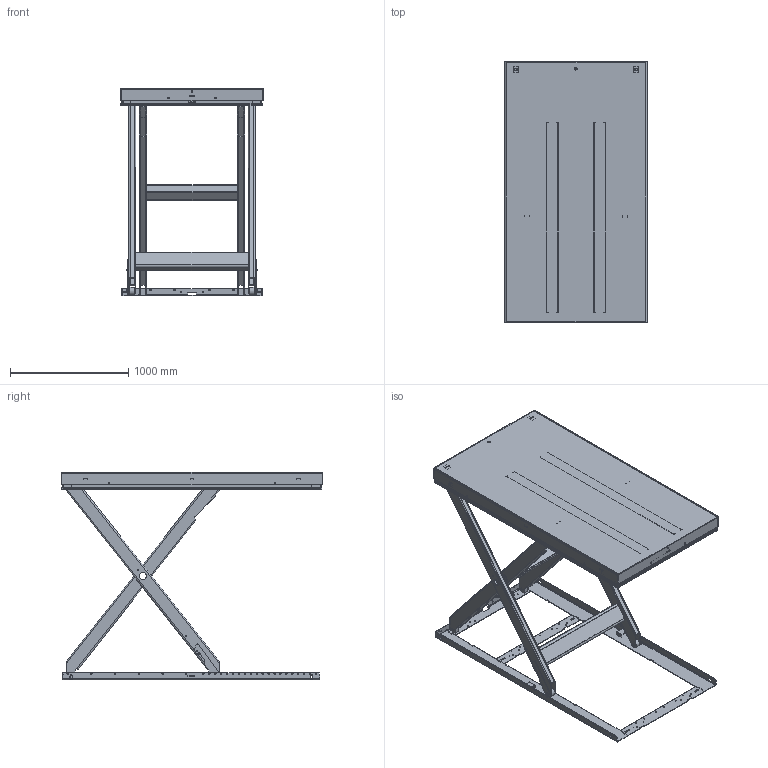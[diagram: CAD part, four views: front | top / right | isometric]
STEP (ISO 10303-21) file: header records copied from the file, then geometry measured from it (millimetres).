
FILE_DESCRIPTION(/* description */ ('Tvärförbindning med gavel'),/* implementation_level */ '2;1');
FILE_NAME(/* name */ '\\EDMOFILE01\Users$\JOHSO\Desktop\606524_Elevated.stp',/* time_stamp */ '2016-02-18T10:11:55+01:00',/* author */ ('JOHSO'),/* organization */ (''),/* preprocessor_version */ 'ST-DEVELOPER v15.6',/* originating_system */ 'Autodesk Inventor 2015',/* authorisation */ '');
FILE_SCHEMA (('AUTOMOTIVE_DESIGN { 1 0 10303 214 3 1 1 }'));
Products named in the file (36): 514601-4; 514601-1_Höger; 514601-1_Vänster; 514601-2; 44870; 45259; 514600; 82159-2112; 606529; 80060-768; 606522; 82159-2112_1; 603642; 82092-949; 606523; 36471; 45387; ISO 4014 - M8 x 40ISO; 41333-1600; 600196; 85955; 33048; 82021; 42289-1153; 42289-2173; 42330; 42331; 43481; ISO 4032 - M8ISO; 33990; 43476; 603398; 42508C; 33371-skel; 33371; 606524_TEMP
Assembly tree (79 placements, depth 4):
  606524_TEMP
    514600
      514601-4
      514601-1_Höger
      514601-1_Vänster
      514601-2  x2
      44870  x2
      45259  x2
    606522
      606529  x2
        82159-2112
      80060-768
    606523
      603642  x2
        82159-2112_1
      82092-949
    33371
      33371-skel
      36471
      45259  x2
      45387  x8
      ISO 4014 - M8 x 40ISO  x6
      41333-1600  x2
      600196  x2
      85955
    33048  x2
    82021  x2
    603398
      42289-1153  x2
      42289-2173  x2
      42330  x4
      42331  x4
      43481  x4
      ISO 4032 - M8ISO  x4
      33990  x2
      43476  x4
    42508C  x4
Bounding box: 1200 x 2200 x 1750 mm (x, y, z)
Volume: 50590466.9 mm3; surface area: 19616894.1 mm2
Topology: 71 solids, 80 shells, 5144 faces, 14230 edges, 9311 vertices
Faces by surface type: plane 2611, cylinder 1797, bspline 486, cone 120, torus 82, sphere 48
Full cylindrical faces by diameter (mm): 0.474 x2, 1 x4, 3 x4, 3.141 x4, 3.2 x4, 4 x16, 4.3 x4, 4.9 x2, 5 x4, 5.2 x6, 5.3 x2, 5.55 x4, 6.647 x4, 7.4 x32, 7.6 x4, 8 x16, 8.5 x4, 10 x6, 10.2 x4, 10.5 x8, 11 x2, 11.63 x6, 12 x4, 12.5 x6, 13 x6, 13.835 x1, 14.5 x16, 16 x8, 18.5 x1, 19 x1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
Entity records: 96943 total; most frequent: CARTESIAN_POINT 24252, ORIENTED_EDGE 14966, DIRECTION 14212, EDGE_CURVE 7481, VERTEX_POINT 5019, AXIS2_PLACEMENT_3D 4791, LINE 4630, VECTOR 4630
